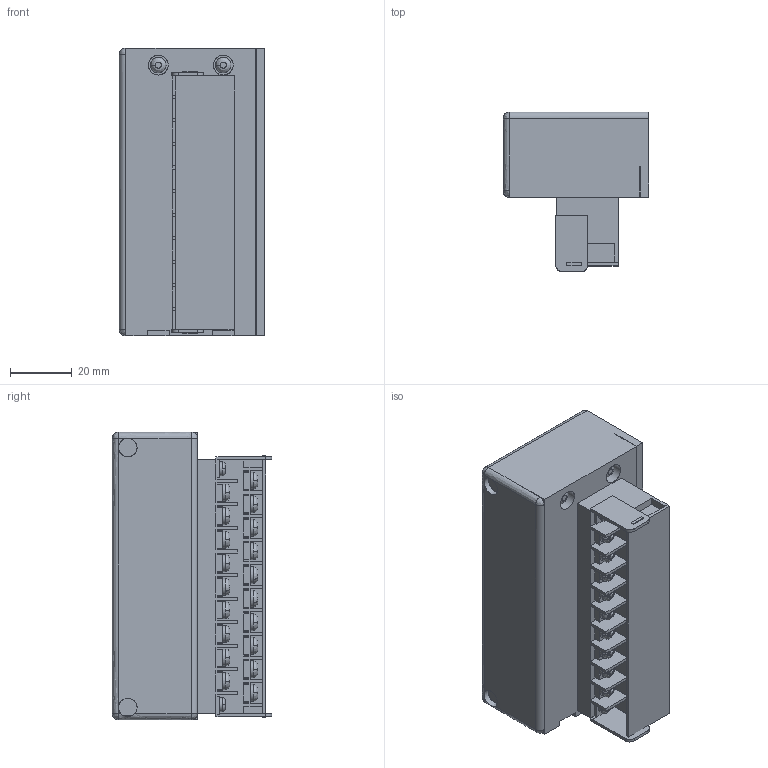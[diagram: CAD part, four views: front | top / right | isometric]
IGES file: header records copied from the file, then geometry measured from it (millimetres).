
Start section: ------------------------------------------------------------------------
Global section: file name: D:\ICADMX\tmp\trans3d_spg\CVICAD02.16560.FZX-T200_8954.igs; native system: spGate; preprocessor: ver12.6.6; author: Unknown; organization: Unknown; date: 200901.142625; units: millimetre
Bounding box: 47 x 51.5 x 93 mm (x, y, z)
Surface area: 33104.8 mm2 (no closed solid volume)
Topology: 0 solids, 0 shells, 918 faces, 5182 edges, 5161 vertices
Faces by surface type: bspline 918
